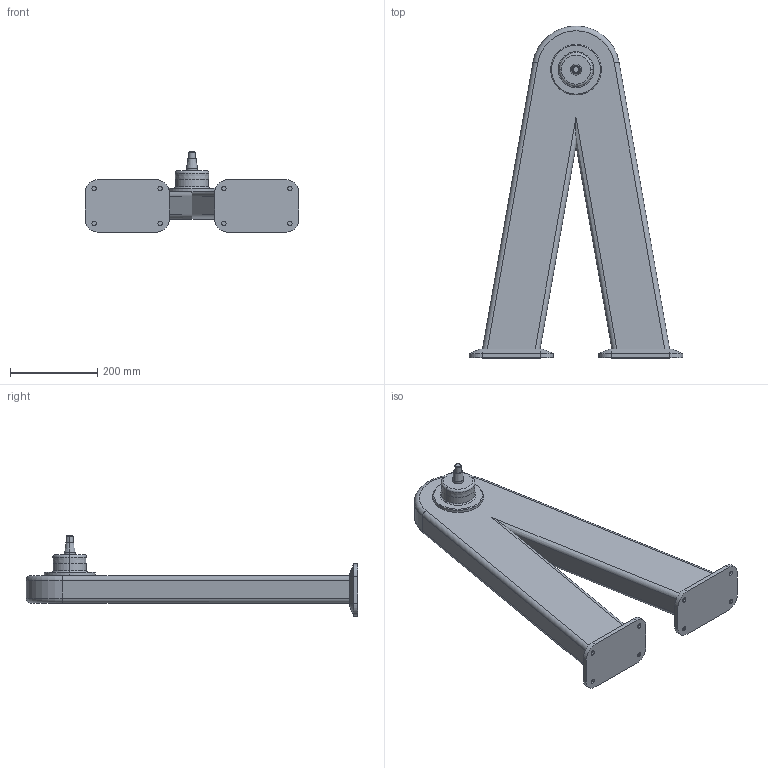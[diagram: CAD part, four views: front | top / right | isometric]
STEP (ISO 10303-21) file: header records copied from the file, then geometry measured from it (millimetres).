
FILE_DESCRIPTION (( 'STEP AP214' ), '1' );
FILE_NAME ('WP850_H660.STEP', '2014-09-08T13:02:58', ( '' ), ( '' ), 'SwSTEP 2.0', 'SolidWorks 2014', '' );
FILE_SCHEMA (( 'AUTOMOTIVE_DESIGN' ));
Length unit declared in the file: millimetre
Products named in the file (1): WP850_H660
Bounding box: 489.78 x 760 x 183.98 mm (x, y, z)
Volume: 12210612.1 mm3; surface area: 598022.4 mm2
Topology: 1 solids, 1 shells, 101 faces, 221 edges, 136 vertices
Faces by surface type: cylinder 41, plane 38, cone 14, torus 8
Entity records: 2795 total; most frequent: DIRECTION 513, CARTESIAN_POINT 489, ORIENTED_EDGE 442, EDGE_CURVE 221, AXIS2_PLACEMENT_3D 200, VERTEX_POINT 136, EDGE_LOOP 115, VECTOR 113
